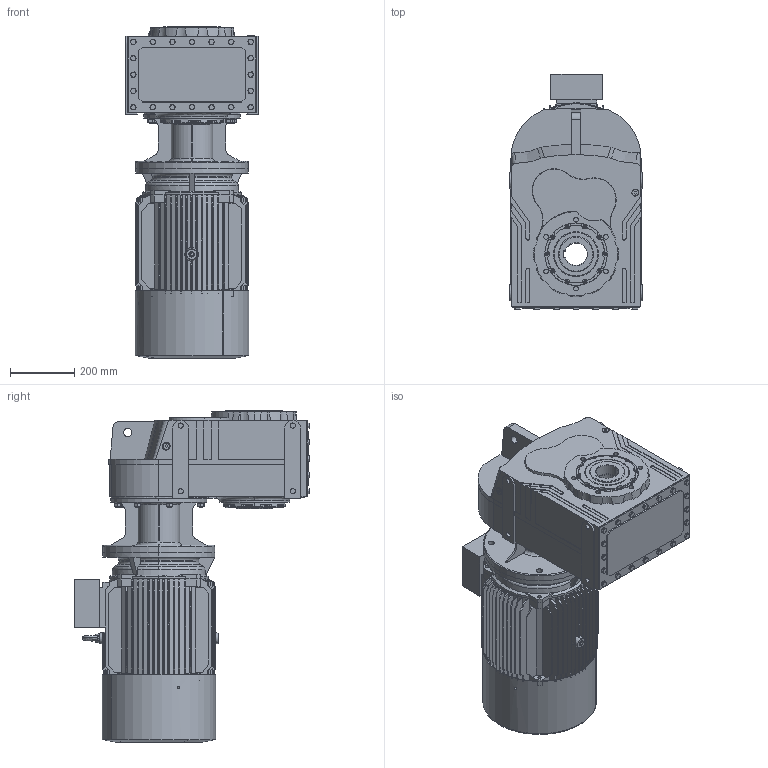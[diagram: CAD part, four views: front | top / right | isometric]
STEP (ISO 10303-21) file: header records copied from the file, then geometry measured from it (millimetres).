
FILE_DESCRIPTION (( 'STEP AP203' ), '1' );
FILE_NAME ('DV672-DV673-3M-180M.STEP', '2019-07-23T12:33:05', ( '' ), ( '' ), 'SwSTEP 2.0', 'SolidWorks 2012', '' );
FILE_SCHEMA (( 'CONFIG_CONTROL_DESIGN' ));
Length unit declared in the file: millimetre
Products named in the file (12): DV672-DV673-3M-180M; Y2-180MB5+À+¿_-++ñ; Eyebolts GB_GB_FASTENER_SCREWS_FRS M12_1; M3-180M-FF-B5; Y2-180-4.6.8+ª-¯ª­-È®+_-++ñ; Y2-180+¦i-_-++ñ; DN_67_3_0_A-B18_B5_ML60A_0_0_0_0_0_0_0_0_0_0_0_0_M1; Y2-180-4.6.8-ª+---®+_-++ñ; Y2-180C++A+¦-¯ª¦+¦_-++ñ; D673_Varsayìlan; 53180B5_Varsayìlan; ML60A_Varsayìlan
Assembly tree (11 placements, depth 3):
  DV672-DV673-3M-180M
    DN_67_3_0_A-B18_B5_ML60A_0_0_0_0_0_0_0_0_0_0_0_0_M1
      D673_Varsayìlan
      53180B5_Varsayìlan
      ML60A_Varsayìlan
    M3-180M-FF-B5
      Y2-180C++A+¦-¯ª¦+¦_-++ñ
      Y2-180+¦i-_-++ñ
      Y2-180-4.6.8-ª+---®+_-++ñ
      Eyebolts GB_GB_FASTENER_SCREWS_FRS M12_1
      Y2-180MB5+À+¿_-++ñ
      Y2-180-4.6.8+ª-¯ª­-È®+_-++ñ
Bounding box: 412 x 733.95 x 1035.5 mm (x, y, z)
Volume: 67353482.4 mm3; surface area: 4593778.3 mm2
Topology: 14 solids, 14 shells, 2506 faces, 6545 edges, 4185 vertices
Faces by surface type: plane 1139, cylinder 669, cone 586, bspline 76, torus 36
Entity records: 85199 total; most frequent: CARTESIAN_POINT 23288, ORIENTED_EDGE 12938, DIRECTION 12453, EDGE_CURVE 6469, AXIS2_PLACEMENT_3D 4730, VERTEX_POINT 4167, VECTOR 2993, LINE 2993
